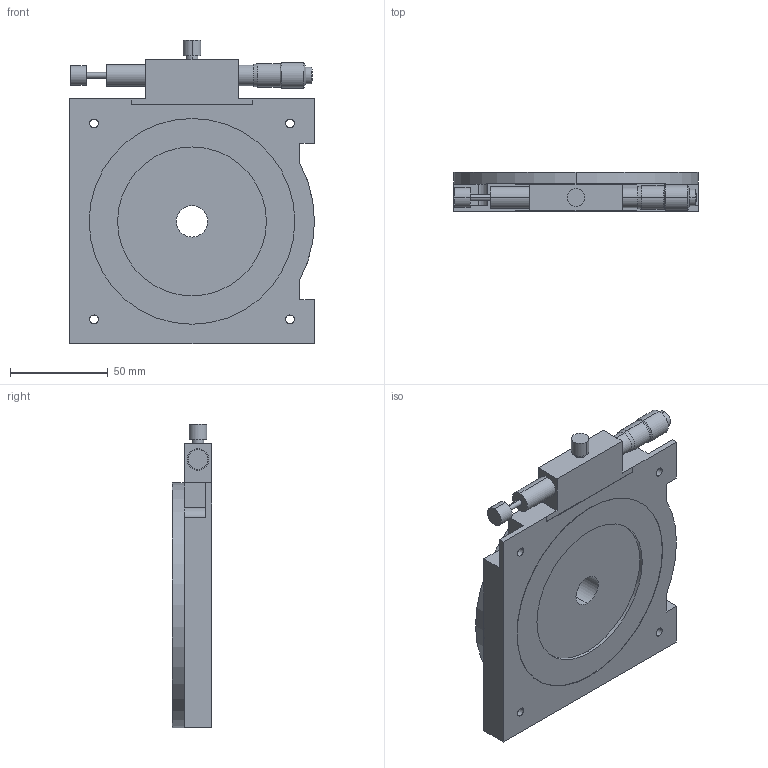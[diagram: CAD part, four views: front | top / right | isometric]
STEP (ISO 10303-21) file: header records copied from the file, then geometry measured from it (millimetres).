
FILE_DESCRIPTION (( 'STEP AP203' ), '1' );
FILE_NAME ('RS-117_a.STEP', '2023-06-22T07:58:18', ( '' ), ( '' ), 'SwSTEP 2.0', 'SolidWorks 2021', '' );
FILE_SCHEMA (( 'CONFIG_CONTROL_DESIGN' ));
Length unit declared in the file: millimetre
Products named in the file (3): RS-117-1_a; RS-117_a; RS-117-2_a
Assembly tree (2 placements, depth 2):
  RS-117_a
    RS-117-1_a
    RS-117-2_a
Bounding box: 125 x 20 x 155 mm (x, y, z)
Volume: 283727.8 mm3; surface area: 72944.8 mm2
Topology: 2 solids, 6 shells, 220 faces, 520 edges, 329 vertices
Faces by surface type: cylinder 131, plane 65, cone 22, sphere 2
Entity records: 6697 total; most frequent: DIRECTION 1218, CARTESIAN_POINT 1058, ORIENTED_EDGE 1008, EDGE_CURVE 504, AXIS2_PLACEMENT_3D 489, VERTEX_POINT 329, EDGE_LOOP 301, CIRCLE 264
